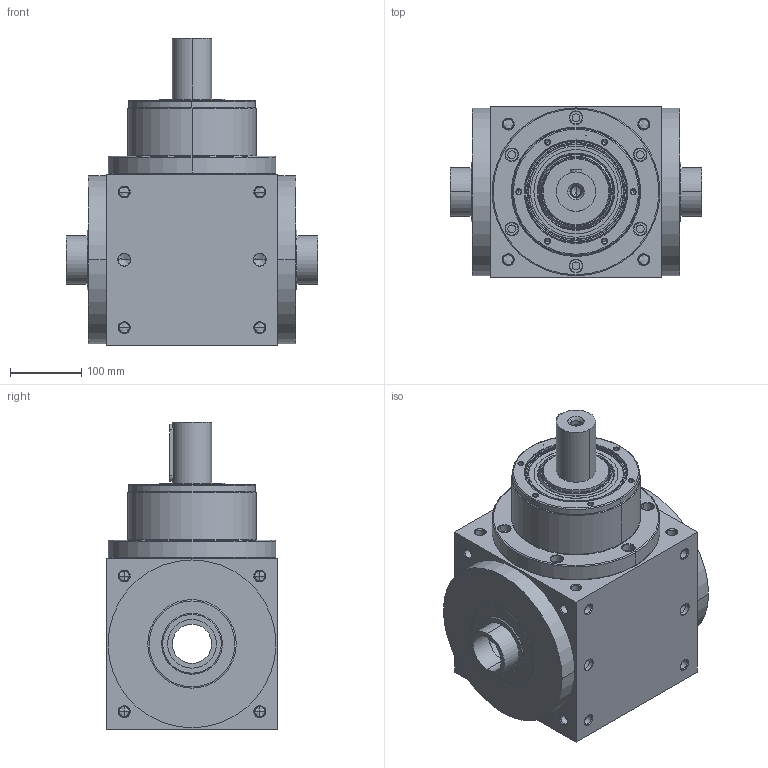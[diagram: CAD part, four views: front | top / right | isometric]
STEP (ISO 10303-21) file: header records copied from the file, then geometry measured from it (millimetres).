
FILE_DESCRIPTION((''),'2;1');
FILE_NAME('ATB240C-1_ASM','2014-07-18T',('D00080'),(''),'PRO/ENGINEER BY PARAMETRIC TECHNOLOGY CORPORATION, 2008170','PRO/ENGINEER BY PARAMETRIC TECHNOLOGY CORPORATION, 2008170','');
FILE_SCHEMA(('CONFIG_CONTROL_DESIGN'));
Length unit declared in the file: millimetre
Products named in the file (6): ATB240C-1; P1820900001; 22400071009; P0904901001; P1208900001; ATB240C-1_ASM
Assembly tree (5 placements, depth 2):
  ATB240C-1_ASM
    ATB240C-1
    P1820900001
    22400071009
    P0904901001
    P1208900001
Bounding box: 352 x 240 x 430 mm (x, y, z)
Volume: 17275406.5 mm3; surface area: 809104.7 mm2
Topology: 6 solids, 38 shells, 611 faces, 1497 edges, 890 vertices
Faces by surface type: cylinder 270, cone 222, plane 79, torus 40
Entity records: 18520 total; most frequent: CARTESIAN_POINT 4017, DIRECTION 3271, ORIENTED_EDGE 2730, EDGE_CURVE 1429, AXIS2_PLACEMENT_3D 1380, VERTEX_POINT 890, CIRCLE 750, EDGE_LOOP 729
